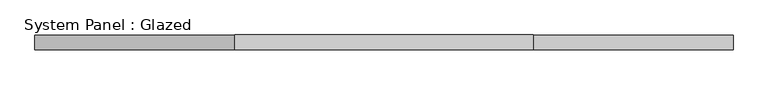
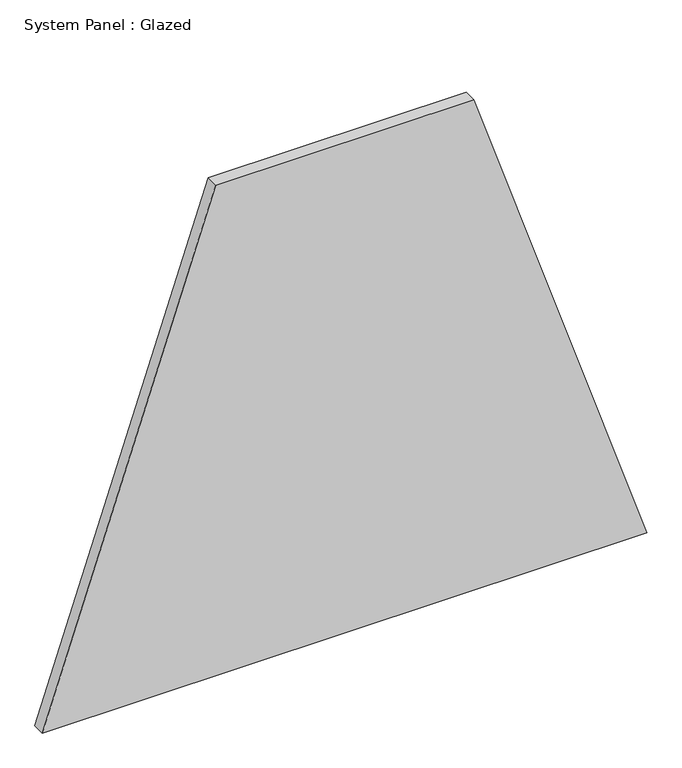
"""IFC4 building model written with IfcOpenShell, lengths in millimetres: plate geometry, System Panel : Glazed."""

from ifc_helpers import new_model, si_unit, frame, origin, place, context, project, spatial, polyline, outline, extrude, source, transform, mapped, element, save


def system_panel_glazed_c9ff7014(model_context):
    return source(origin(), model_context, "Body", "SweptSolid", [
        extrude(outline(polyline([(0.0, -589.5463385), (0.0, 589.5463385), (1011.8817869, 251.6743371), (1011.8817869, -251.6743371), (0.0, -589.5463385)])), frame((0.0, -49.5, 0.0), z_axis=(0.0, 1.0, 0.0), x_axis=(0.0, 0.0, 1.0)), (0.0, 0.0, 1.0), 25.0),
    ])


if __name__ == "__main__":
    model = new_model("IFC4")
    model_context = context("Model", 3, world=origin())
    ifc_project = project(units=[si_unit("LENGTHUNIT", "METRE", prefix="MILLI")], contexts=[model_context])
    site = spatial("IfcSite", under=ifc_project)
    building = spatial("IfcBuilding", under=site)
    placement = place(None, origin())
    system_panel_glazed_shape = system_panel_glazed_c9ff7014(model_context)
    element("IfcPlate", 1, ObjectType="System Panel : Glazed", at=placement, inside=building, context=model_context, shape_type="MappedRepresentation", body=[
        mapped(system_panel_glazed_shape, transform((0.0, 0.0, 0.0), x_axis=(1.0, 0.0, 0.0), y_axis=(0.0, 1.0, 0.0), z_axis=(0.0, 0.0, 1.0))),
    ])
    save(model, "model.ifc")
